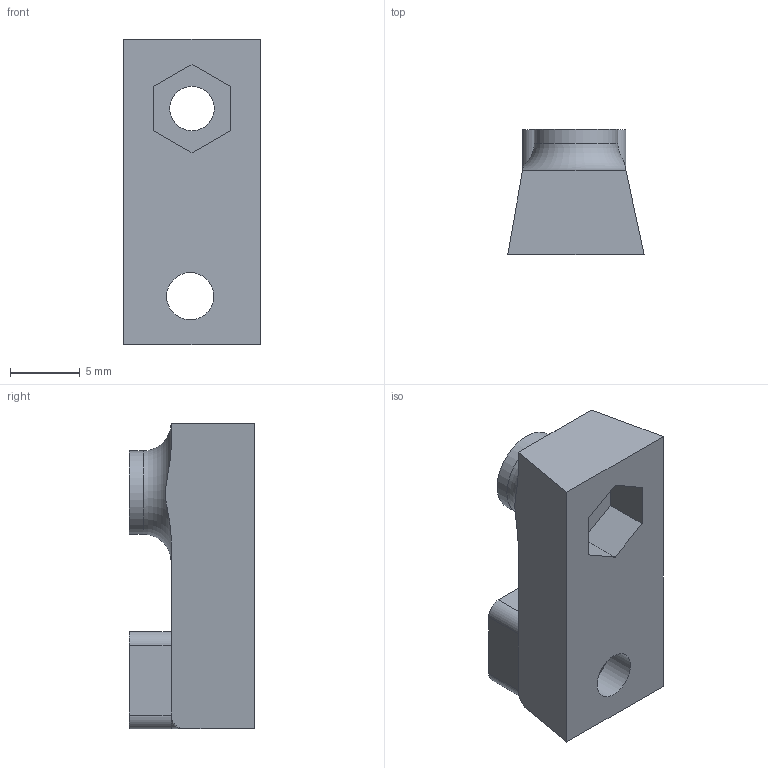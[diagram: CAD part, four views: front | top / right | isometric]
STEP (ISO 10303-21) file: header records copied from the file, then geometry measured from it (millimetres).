
FILE_DESCRIPTION(/* description */ (''),/* implementation_level */ '2;1');
FILE_NAME(/* name */ 'blocco_tendi.stp',/* time_stamp */ '2025-06-05T08:14:35+02:00',/* author */ ('R5800u'),/* organization */ (''),/* preprocessor_version */ 'ST-DEVELOPER v20',/* originating_system */ 'Autodesk Inventor 2025',/* authorisation */ '');
FILE_SCHEMA (('AUTOMOTIVE_DESIGN { 1 0 10303 214 3 1 1 }'));
Length unit declared in the file: millimetre
Products named in the file (1): blocco_tendi
Bounding box: 9.81 x 9 x 22 mm (x, y, z)
Volume: 1082 mm3; surface area: 1138.5 mm2
Topology: 1 solids, 1 shells, 38 faces, 95 edges, 60 vertices
Faces by surface type: plane 26, cylinder 9, bspline 2, torus 1
Full cylindrical faces by diameter (mm): 3.2 x1, 3.4 x2, 5.5 x1, 6 x1
Entity records: 1217 total; most frequent: CARTESIAN_POINT 250, DIRECTION 192, ORIENTED_EDGE 186, EDGE_CURVE 93, LINE 64, VECTOR 64, AXIS2_PLACEMENT_3D 64, VERTEX_POINT 60
